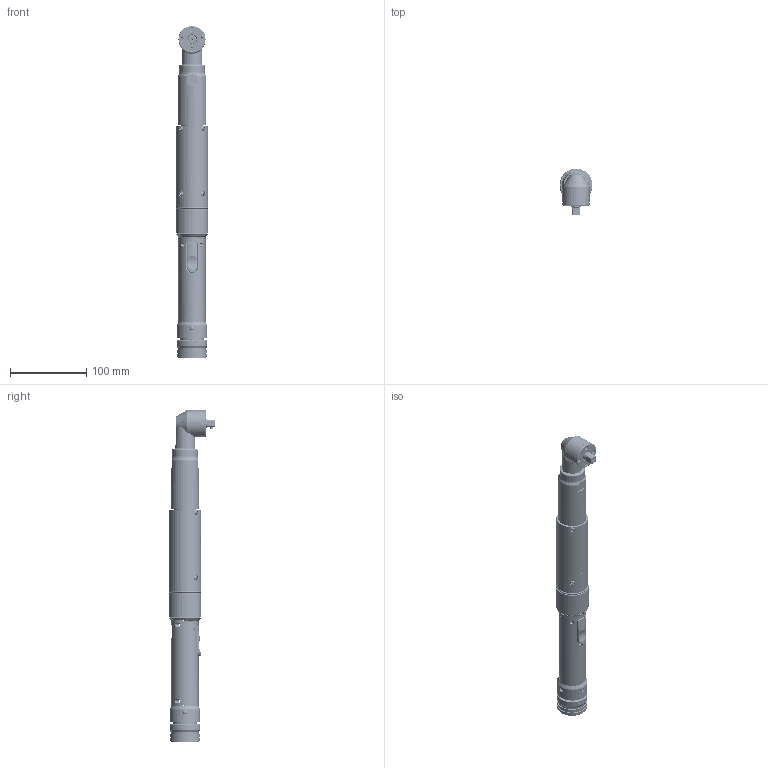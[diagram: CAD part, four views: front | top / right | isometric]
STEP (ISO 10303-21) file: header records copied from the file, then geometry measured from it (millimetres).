
FILE_DESCRIPTION (( 'STEP AP214' ), '1' );
FILE_NAME ('AEN4F220_ _B.STEP', '2020-03-19T16:22:43', ( '' ), ( '' ), 'SwSTEP 2.0', 'SolidWorks 2019', '' );
FILE_SCHEMA (( 'AUTOMOTIVE_DESIGN' ));
Length unit declared in the file: inch
Products named in the file (1): AEN4F220_ _B
Bounding box: 43.31 x 61.73 x 436.58 mm (x, y, z)
Volume: 213536.3 mm3; surface area: 181064.8 mm2
Topology: 70 solids, 70 shells, 4553 faces, 11353 edges, 7141 vertices
Faces by surface type: cylinder 1279, bspline 1174, plane 1083, cone 624, torus 386, sphere 7
Entity records: 236322 total; most frequent: CARTESIAN_POINT 77132, ORIENTED_EDGE 22652, DIRECTION 17556, EDGE_CURVE 11326, AXIS2_PLACEMENT_3D 7209, VERTEX_POINT 7141, EDGE_LOOP 4995, UNCERTAINTY_MEASURE_WITH_UNIT 4590
